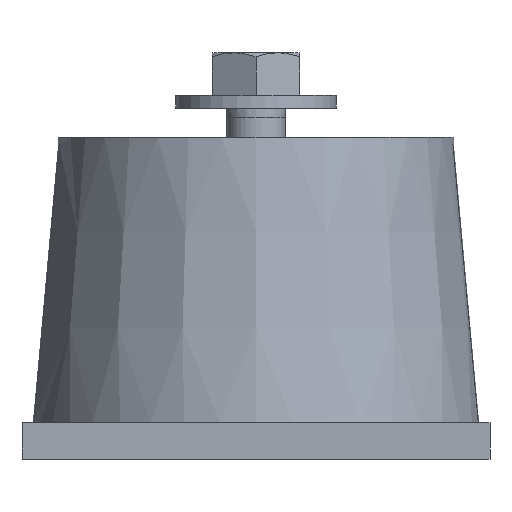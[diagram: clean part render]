
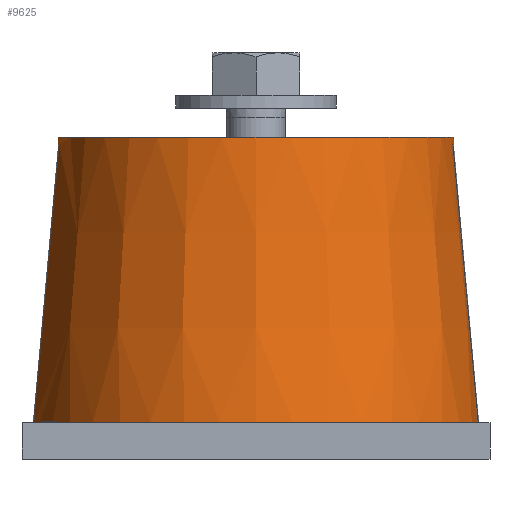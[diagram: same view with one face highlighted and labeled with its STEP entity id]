
A CAD part, front view. The second image highlights one B-rep face of the part: STEP entity #9625.
In plain terms, the highlighted conical face has half-angle 5.192 degrees and reference radius 45.676 mm.
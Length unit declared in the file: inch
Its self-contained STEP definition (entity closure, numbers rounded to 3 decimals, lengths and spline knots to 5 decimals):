
#124=CARTESIAN_POINT('',(-0.1875,1.89977,0.3125));
#125=VERTEX_POINT('',#124);
#126=CARTESIAN_POINT('',(-0.1875,1.68277,2.6875));
#127=VERTEX_POINT('',#126);
#128=CARTESIAN_POINT('',(-0.1875,1.89977,0.3125));
#129=CARTESIAN_POINT('',(-0.1875,1.78477,1.57193));
#130=CARTESIAN_POINT('',(-0.1875,1.68277,2.6875));
#138=(BOUNDED_CURVE()B_SPLINE_CURVE(2,(#128,#129,#130),.UNSPECIFIED.,.F.,.U.)B_SPLINE_CURVE_WITH_KNOTS((3,3),(0.0,6.05763),.UNSPECIFIED.)CURVE()GEOMETRIC_REPRESENTATION_ITEM()RATIONAL_B_SPLINE_CURVE((1.0,1.002,1.0))REPRESENTATION_ITEM(''));
#139=EDGE_CURVE('',#125,#127,#138,.T.);
#141=CARTESIAN_POINT('',(0.1875,1.68277,2.6875));
#142=VERTEX_POINT('',#141);
#143=CARTESIAN_POINT('',(0.,0.,2.6875));
#144=DIRECTION('',(0.0,0.0,-1.0));
#145=DIRECTION('',(1.0,0.0,0.0));
#146=AXIS2_PLACEMENT_3D('',#143,#144,#145);
#147=CIRCLE('',#146,1.69318);
#148=EDGE_CURVE('',#127,#142,#147,.T.);
#150=CARTESIAN_POINT('',(0.1875,1.89977,0.3125));
#151=VERTEX_POINT('',#150);
#152=CARTESIAN_POINT('',(0.1875,1.68277,2.6875));
#153=CARTESIAN_POINT('',(0.1875,1.78477,1.57193));
#154=CARTESIAN_POINT('',(0.1875,1.89977,0.3125));
#162=(BOUNDED_CURVE()B_SPLINE_CURVE(2,(#152,#153,#154),.UNSPECIFIED.,.F.,.U.)B_SPLINE_CURVE_WITH_KNOTS((3,3),(0.0,6.05763),.UNSPECIFIED.)CURVE()GEOMETRIC_REPRESENTATION_ITEM()RATIONAL_B_SPLINE_CURVE((1.0,1.002,1.0))REPRESENTATION_ITEM(''));
#163=EDGE_CURVE('',#142,#151,#162,.T.);
#180=CARTESIAN_POINT('',(0.1875,-1.89977,0.3125));
#181=VERTEX_POINT('',#180);
#182=CARTESIAN_POINT('',(0.1875,-1.68277,2.6875));
#183=VERTEX_POINT('',#182);
#184=CARTESIAN_POINT('',(0.1875,-1.89977,0.3125));
#185=CARTESIAN_POINT('',(0.1875,-1.78477,1.57193));
#186=CARTESIAN_POINT('',(0.1875,-1.68277,2.6875));
#194=(BOUNDED_CURVE()B_SPLINE_CURVE(2,(#184,#185,#186),.UNSPECIFIED.,.F.,.U.)B_SPLINE_CURVE_WITH_KNOTS((3,3),(0.0,6.05763),.UNSPECIFIED.)CURVE()GEOMETRIC_REPRESENTATION_ITEM()RATIONAL_B_SPLINE_CURVE((1.0,1.002,1.0))REPRESENTATION_ITEM(''));
#195=EDGE_CURVE('',#181,#183,#194,.T.);
#197=CARTESIAN_POINT('',(-0.1875,-1.68277,2.6875));
#198=VERTEX_POINT('',#197);
#199=CARTESIAN_POINT('',(0.,0.,2.6875));
#200=DIRECTION('',(0.0,0.0,-1.0));
#201=DIRECTION('',(1.0,0.0,0.0));
#202=AXIS2_PLACEMENT_3D('',#199,#200,#201);
#203=CIRCLE('',#202,1.69318);
#204=EDGE_CURVE('',#183,#198,#203,.T.);
#206=CARTESIAN_POINT('',(-0.1875,-1.89977,0.3125));
#207=VERTEX_POINT('',#206);
#208=CARTESIAN_POINT('',(-0.1875,-1.68277,2.6875));
#209=CARTESIAN_POINT('',(-0.1875,-1.78477,1.57193));
#210=CARTESIAN_POINT('',(-0.1875,-1.89977,0.3125));
#218=(BOUNDED_CURVE()B_SPLINE_CURVE(2,(#208,#209,#210),.UNSPECIFIED.,.F.,.U.)B_SPLINE_CURVE_WITH_KNOTS((3,3),(0.0,6.05763),.UNSPECIFIED.)CURVE()GEOMETRIC_REPRESENTATION_ITEM()RATIONAL_B_SPLINE_CURVE((1.0,1.002,1.0))REPRESENTATION_ITEM(''));
#219=EDGE_CURVE('',#198,#207,#218,.T.);
#532=CARTESIAN_POINT('',(1.6875,0.,2.75));
#533=VERTEX_POINT('',#532);
#534=CARTESIAN_POINT('',(0.,0.,2.75));
#535=DIRECTION('',(0.0,0.0,-1.0));
#536=DIRECTION('',(1.0,0.0,0.0));
#537=AXIS2_PLACEMENT_3D('',#534,#535,#536);
#538=CIRCLE('',#537,1.6875);
#539=EDGE_CURVE('',#533,#533,#538,.T.);
#5484=CARTESIAN_POINT('',(1.909,0.,0.3125));
#5485=VERTEX_POINT('',#5484);
#5486=CARTESIAN_POINT('',(0.,0.,0.3125));
#5487=DIRECTION('',(0.0,0.0,-1.0));
#5488=DIRECTION('',(1.0,0.0,0.0));
#5489=AXIS2_PLACEMENT_3D('',#5486,#5487,#5488);
#5490=CIRCLE('',#5489,1.909);
#5491=EDGE_CURVE('',#5485,#181,#5490,.T.);
#5494=CARTESIAN_POINT('',(0.,0.,0.3125));
#5495=DIRECTION('',(0.0,0.0,-1.0));
#5496=DIRECTION('',(1.0,0.0,0.0));
#5497=AXIS2_PLACEMENT_3D('',#5494,#5495,#5496);
#5498=CIRCLE('',#5497,1.909);
#5499=EDGE_CURVE('',#207,#125,#5498,.T.);
#5502=CARTESIAN_POINT('',(0.,0.,0.3125));
#5503=DIRECTION('',(0.0,0.0,-1.0));
#5504=DIRECTION('',(1.0,0.0,0.0));
#5505=AXIS2_PLACEMENT_3D('',#5502,#5503,#5504);
#5506=CIRCLE('',#5505,1.909);
#5507=EDGE_CURVE('',#151,#5485,#5506,.T.);
#9606=CARTESIAN_POINT('',(0.,0.,1.53125));
#9607=DIRECTION('',(0.,0.,-1.0));
#9608=DIRECTION('',(1.0,0.0,0.0));
#9609=AXIS2_PLACEMENT_3D('',#9606,#9607,#9608);
#9610=CONICAL_SURFACE('',#9609,1.79825,5.192);
#9611=ORIENTED_EDGE('',*,*,#195,.F.);
#9612=ORIENTED_EDGE('',*,*,#5491,.F.);
#9613=ORIENTED_EDGE('',*,*,#5507,.F.);
#9614=ORIENTED_EDGE('',*,*,#163,.F.);
#9615=ORIENTED_EDGE('',*,*,#148,.F.);
#9616=ORIENTED_EDGE('',*,*,#139,.F.);
#9617=ORIENTED_EDGE('',*,*,#5499,.F.);
#9618=ORIENTED_EDGE('',*,*,#219,.F.);
#9619=ORIENTED_EDGE('',*,*,#204,.F.);
#9620=EDGE_LOOP('',(#9611,#9612,#9613,#9614,#9615,#9616,#9617,#9618,#9619));
#9621=FACE_OUTER_BOUND('',#9620,.T.);
#9622=ORIENTED_EDGE('',*,*,#539,.T.);
#9623=EDGE_LOOP('',(#9622));
#9624=FACE_BOUND('',#9623,.T.);
#9625=ADVANCED_FACE('',(#9621,#9624),#9610,.T.);
